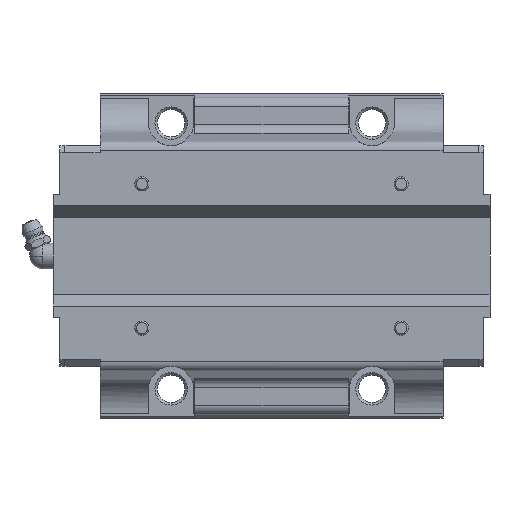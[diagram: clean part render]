
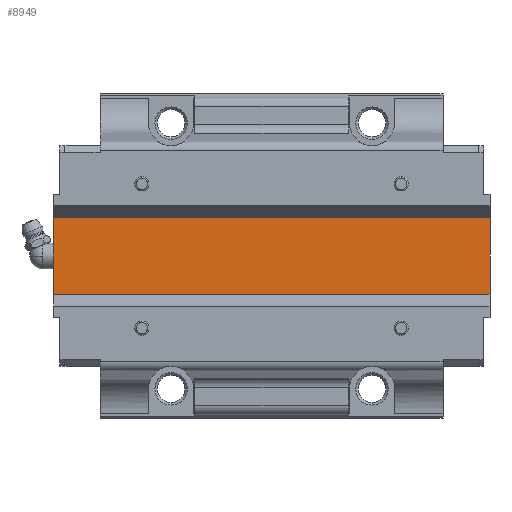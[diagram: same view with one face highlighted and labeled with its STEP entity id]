
A CAD part, front view. The second image highlights one B-rep face of the part: STEP entity #8949.
In plain terms, the highlighted planar face has unit normal (0, -1, 0).
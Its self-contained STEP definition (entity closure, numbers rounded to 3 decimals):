
#11 = EDGE_CURVE ( 'NONE', #8344, #5730, #1079, .T. ) ;
#1079 = LINE ( 'NONE', #4236, #6717 ) ;
#1265 = EDGE_CURVE ( 'NONE', #8344, #5637, #2077, .T. ) ;
#1879 = ORIENTED_EDGE ( 'NONE', *, *, #3334, .F. ) ;
#1965 = ORIENTED_EDGE ( 'NONE', *, *, #1265, .T. ) ;
#2077 = LINE ( 'NONE', #2172, #5749 ) ;
#2172 = CARTESIAN_POINT ( 'NONE',  ( 67.4, 29., -13.11 ) ) ;
#2216 = DIRECTION ( 'NONE',  ( 0., -1., 0. ) ) ;
#2365 = AXIS2_PLACEMENT_3D ( 'NONE', #9002, #2216, #2700 ) ;
#2635 = CARTESIAN_POINT ( 'NONE',  ( -67.4, 29., -13.11 ) ) ;
#2700 = DIRECTION ( 'NONE',  ( 0., 0., -1. ) ) ;
#2737 = DIRECTION ( 'NONE',  ( 0., 0., 1. ) ) ;
#3174 = VECTOR ( 'NONE', #8140, 1000. ) ;
#3334 = EDGE_CURVE ( 'NONE', #5730, #6648, #3350, .T. ) ;
#3350 = LINE ( 'NONE', #2635, #4534 ) ;
#3632 = FACE_OUTER_BOUND ( 'NONE', #6109, .T. ) ;
#3775 = ORIENTED_EDGE ( 'NONE', *, *, #11, .F. ) ;
#3797 = CARTESIAN_POINT ( 'NONE',  ( 67.4, 29., 13.11 ) ) ;
#3917 = CARTESIAN_POINT ( 'NONE',  ( 67.4, 29., -13.11 ) ) ;
#4236 = CARTESIAN_POINT ( 'NONE',  ( 67.4, 29., -13.11 ) ) ;
#4534 = VECTOR ( 'NONE', #2737, 1000. ) ;
#4960 = CARTESIAN_POINT ( 'NONE',  ( -67.4, 29., 13.11 ) ) ;
#5637 = VERTEX_POINT ( 'NONE', #3797 ) ;
#5730 = VERTEX_POINT ( 'NONE', #9369 ) ;
#5749 = VECTOR ( 'NONE', #6063, 1000. ) ;
#6063 = DIRECTION ( 'NONE',  ( 0., 0., 1. ) ) ;
#6109 = EDGE_LOOP ( 'NONE', ( #1879, #3775, #1965, #8960 ) ) ;
#6598 = CARTESIAN_POINT ( 'NONE',  ( 67.4, 29., 13.11 ) ) ;
#6648 = VERTEX_POINT ( 'NONE', #4960 ) ;
#6717 = VECTOR ( 'NONE', #9753, 1000. ) ;
#8091 = LINE ( 'NONE', #6598, #3174 ) ;
#8140 = DIRECTION ( 'NONE',  ( -1., 0., 0. ) ) ;
#8344 = VERTEX_POINT ( 'NONE', #3917 ) ;
#8519 = PLANE ( 'NONE',  #2365 ) ;
#8949 = ADVANCED_FACE ( 'NONE', ( #3632 ), #8519, .T. ) ;
#8960 = ORIENTED_EDGE ( 'NONE', *, *, #9603, .T. ) ;
#9002 = CARTESIAN_POINT ( 'NONE',  ( 67.4, 29., -13.11 ) ) ;
#9369 = CARTESIAN_POINT ( 'NONE',  ( -67.4, 29., -13.11 ) ) ;
#9603 = EDGE_CURVE ( 'NONE', #5637, #6648, #8091, .T. ) ;
#9753 = DIRECTION ( 'NONE',  ( -1., 0., 0. ) ) ;
